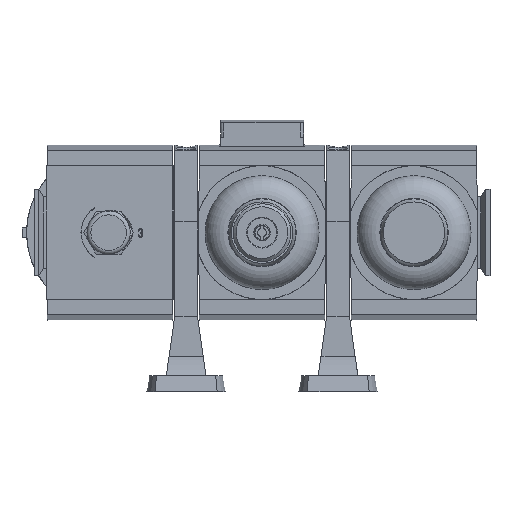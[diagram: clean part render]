
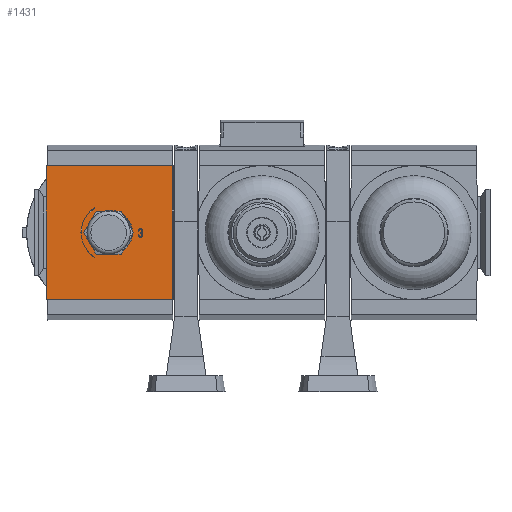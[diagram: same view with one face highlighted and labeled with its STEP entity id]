
A CAD part, front view. The second image highlights one B-rep face of the part: STEP entity #1431.
In plain terms, the highlighted planar face has unit normal (0, -1, 0).
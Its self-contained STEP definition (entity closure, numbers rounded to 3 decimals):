
#1431 = ADVANCED_FACE( '', ( #3144, #3145, #3146, #3147 ), #3148, .F. );
#3144 = FACE_BOUND( '', #5420, .T. );
#3145 = FACE_BOUND( '', #5421, .T. );
#3146 = FACE_BOUND( '', #5422, .T. );
#3147 = FACE_OUTER_BOUND( '', #5423, .T. );
#3148 = PLANE( '', #5424 );
#5420 = EDGE_LOOP( '', ( #8729, #8730, #8731, #8732, #8733, #8734, #8735 ) );
#5421 = EDGE_LOOP( '', ( #8736 ) );
#5422 = EDGE_LOOP( '', ( #8737, #8738, #8739, #8740 ) );
#5423 = EDGE_LOOP( '', ( #8741, #8742, #8743, #8744 ) );
#5424 = AXIS2_PLACEMENT_3D( '', #8745, #8746, #8747 );
#8729 = ORIENTED_EDGE( '', *, *, #12701, .T. );
#8730 = ORIENTED_EDGE( '', *, *, #13616, .T. );
#8731 = ORIENTED_EDGE( '', *, *, #12971, .T. );
#8732 = ORIENTED_EDGE( '', *, *, #13617, .T. );
#8733 = ORIENTED_EDGE( '', *, *, #12991, .F. );
#8734 = ORIENTED_EDGE( '', *, *, #13446, .T. );
#8735 = ORIENTED_EDGE( '', *, *, #13618, .F. );
#8736 = ORIENTED_EDGE( '', *, *, #13619, .F. );
#8737 = ORIENTED_EDGE( '', *, *, #13620, .T. );
#8738 = ORIENTED_EDGE( '', *, *, #13621, .T. );
#8739 = ORIENTED_EDGE( '', *, *, #13622, .F. );
#8740 = ORIENTED_EDGE( '', *, *, #13623, .T. );
#8741 = ORIENTED_EDGE( '', *, *, #13624, .F. );
#8742 = ORIENTED_EDGE( '', *, *, #13625, .F. );
#8743 = ORIENTED_EDGE( '', *, *, #13626, .F. );
#8744 = ORIENTED_EDGE( '', *, *, #13627, .T. );
#8745 = CARTESIAN_POINT( '', ( -5., -25., 22. ) );
#8746 = DIRECTION( '', ( 0., 1., 0. ) );
#8747 = DIRECTION( '', ( 0., 0., 1. ) );
#12701 = EDGE_CURVE( '', #14954, #14955, #14956, .T. );
#12971 = EDGE_CURVE( '', #15429, #15430, #15431, .T. );
#12991 = EDGE_CURVE( '', #15465, #15466, #15467, .T. );
#13446 = EDGE_CURVE( '', #15465, #16219, #16220, .T. );
#13616 = EDGE_CURVE( '', #14955, #15429, #16484, .T. );
#13617 = EDGE_CURVE( '', #15430, #15466, #16485, .T. );
#13618 = EDGE_CURVE( '', #14954, #16219, #16486, .T. );
#13619 = EDGE_CURVE( '', #16487, #16487, #16488, .T. );
#13620 = EDGE_CURVE( '', #16489, #16490, #16491, .T. );
#13621 = EDGE_CURVE( '', #16490, #16492, #16493, .T. );
#13622 = EDGE_CURVE( '', #16494, #16492, #16495, .T. );
#13623 = EDGE_CURVE( '', #16494, #16489, #16496, .T. );
#13624 = EDGE_CURVE( '', #16497, #16498, #16499, .T. );
#13625 = EDGE_CURVE( '', #16500, #16497, #16501, .T. );
#13626 = EDGE_CURVE( '', #16502, #16500, #16503, .T. );
#13627 = EDGE_CURVE( '', #16502, #16498, #16504, .T. );
#14954 = VERTEX_POINT( '', #18257 );
#14955 = VERTEX_POINT( '', #18258 );
#14956 = LINE( '', #18259, #18260 );
#15429 = VERTEX_POINT( '', #19191 );
#15430 = VERTEX_POINT( '', #19192 );
#15431 = CIRCLE( '', #19193, 0.75 );
#15465 = VERTEX_POINT( '', #19241 );
#15466 = VERTEX_POINT( '', #19242 );
#15467 = CIRCLE( '', #19243, 0.5 );
#16219 = VERTEX_POINT( '', #20367 );
#16220 = LINE( '', #20368, #20369 );
#16484 = CIRCLE( '', #20835, 0.75 );
#16485 = LINE( '', #20836, #20837 );
#16486 = CIRCLE( '', #20838, 0.5 );
#16487 = VERTEX_POINT( '', #20839 );
#16488 = CIRCLE( '', #20840, 7.341 );
#16489 = VERTEX_POINT( '', #20841 );
#16490 = VERTEX_POINT( '', #20842 );
#16491 = CIRCLE( '', #20843, 9.6 );
#16492 = VERTEX_POINT( '', #20844 );
#16493 = LINE( '', #20845, #20846 );
#16494 = VERTEX_POINT( '', #20847 );
#16495 = CIRCLE( '', #20848, 9.5 );
#16496 = LINE( '', #20849, #20850 );
#16497 = VERTEX_POINT( '', #20851 );
#16498 = VERTEX_POINT( '', #20852 );
#16499 = LINE( '', #20853, #20854 );
#16500 = VERTEX_POINT( '', #20855 );
#16501 = LINE( '', #20856, #20857 );
#16502 = VERTEX_POINT( '', #20858 );
#16503 = LINE( '', #20859, #20860 );
#16504 = LINE( '', #20861, #20862 );
#18257 = CARTESIAN_POINT( '', ( 9.5, -25., 0.5 ) );
#18258 = CARTESIAN_POINT( '', ( 9.25, -25., 0.5 ) );
#18259 = CARTESIAN_POINT( '', ( 9.5, -25., 0.5 ) );
#18260 = VECTOR( '', #23299, 1000. );
#19191 = CARTESIAN_POINT( '', ( 10.415, -25., -0.125 ) );
#19192 = CARTESIAN_POINT( '', ( 9.25, -25., -0.75 ) );
#19193 = AXIS2_PLACEMENT_3D( '', #23611, #23612, #23613 );
#19241 = CARTESIAN_POINT( '', ( 10., -25., -0.25 ) );
#19242 = CARTESIAN_POINT( '', ( 9.5, -25., -0.75 ) );
#19243 = AXIS2_PLACEMENT_3D( '', #23631, #23632, #23633 );
#20367 = CARTESIAN_POINT( '', ( 10., -25., 0. ) );
#20368 = CARTESIAN_POINT( '', ( 10., -25., -0.25 ) );
#20369 = VECTOR( '', #24216, 1000. );
#20835 = AXIS2_PLACEMENT_3D( '', #24408, #24409, #24410 );
#20836 = CARTESIAN_POINT( '', ( 9.25, -25., -0.75 ) );
#20837 = VECTOR( '', #24411, 1000. );
#20838 = AXIS2_PLACEMENT_3D( '', #24412, #24413, #24414 );
#20839 = CARTESIAN_POINT( '', ( 0., -25., -7.341 ) );
#20840 = AXIS2_PLACEMENT_3D( '', #24415, #24416, #24417 );
#20841 = CARTESIAN_POINT( '', ( -5., -25., -8.195 ) );
#20842 = CARTESIAN_POINT( '', ( -5., -25., 8.195 ) );
#20843 = AXIS2_PLACEMENT_3D( '', #24418, #24419, #24420 );
#20844 = CARTESIAN_POINT( '', ( -5., -25., 8.078 ) );
#20845 = CARTESIAN_POINT( '', ( -5., -25., 22. ) );
#20846 = VECTOR( '', #24421, 1000. );
#20847 = CARTESIAN_POINT( '', ( -5., -25., -8.078 ) );
#20848 = AXIS2_PLACEMENT_3D( '', #24422, #24423, #24424 );
#20849 = CARTESIAN_POINT( '', ( -5., -25., 22. ) );
#20850 = VECTOR( '', #24425, 1000. );
#20851 = CARTESIAN_POINT( '', ( 20.5, -25., 22. ) );
#20852 = CARTESIAN_POINT( '', ( 20.5, -25., -22. ) );
#20853 = CARTESIAN_POINT( '', ( 20.5, -25., 22. ) );
#20854 = VECTOR( '', #24426, 1000. );
#20855 = CARTESIAN_POINT( '', ( -21., -25., 22. ) );
#20856 = CARTESIAN_POINT( '', ( -5., -25., 22. ) );
#20857 = VECTOR( '', #24427, 1000. );
#20858 = CARTESIAN_POINT( '', ( -21., -25., -22. ) );
#20859 = CARTESIAN_POINT( '', ( -21., -25., -22. ) );
#20860 = VECTOR( '', #24428, 1000. );
#20861 = CARTESIAN_POINT( '', ( -5., -25., -22. ) );
#20862 = VECTOR( '', #24429, 1000. );
#23299 = DIRECTION( '', ( -1., 0., 0. ) );
#23611 = CARTESIAN_POINT( '', ( 10., -25., -0.75 ) );
#23612 = DIRECTION( '', ( 0., 1., 0. ) );
#23613 = DIRECTION( '', ( 1., 0., 0. ) );
#23631 = CARTESIAN_POINT( '', ( 10., -25., -0.75 ) );
#23632 = DIRECTION( '', ( 0., 1., 0. ) );
#23633 = DIRECTION( '', ( 1., 0., 0. ) );
#24216 = DIRECTION( '', ( 0., 0., 1. ) );
#24408 = CARTESIAN_POINT( '', ( 10., -25., 0.5 ) );
#24409 = DIRECTION( '', ( 0., 1., 0. ) );
#24410 = DIRECTION( '', ( 1., 0., 0. ) );
#24411 = DIRECTION( '', ( 1., 0., 0. ) );
#24412 = CARTESIAN_POINT( '', ( 10., -25., 0.5 ) );
#24413 = DIRECTION( '', ( 0., 1., 0. ) );
#24414 = DIRECTION( '', ( 1., 0., 0. ) );
#24415 = CARTESIAN_POINT( '', ( 0., -25., 0. ) );
#24416 = DIRECTION( '', ( 0., -1., 0. ) );
#24417 = DIRECTION( '', ( 0., 0., -1. ) );
#24418 = CARTESIAN_POINT( '', ( 0., -25., 0. ) );
#24419 = DIRECTION( '', ( 0., 1., 0. ) );
#24420 = DIRECTION( '', ( 1., 0., 0. ) );
#24421 = DIRECTION( '', ( 0., 0., -1. ) );
#24422 = CARTESIAN_POINT( '', ( 0., -25., 0. ) );
#24423 = DIRECTION( '', ( 0., 1., 0. ) );
#24424 = DIRECTION( '', ( 1., 0., 0. ) );
#24425 = DIRECTION( '', ( 0., 0., -1. ) );
#24426 = DIRECTION( '', ( 0., 0., -1. ) );
#24427 = DIRECTION( '', ( 1., 0., 0. ) );
#24428 = DIRECTION( '', ( 0., 0., 1. ) );
#24429 = DIRECTION( '', ( 1., 0., 0. ) );
